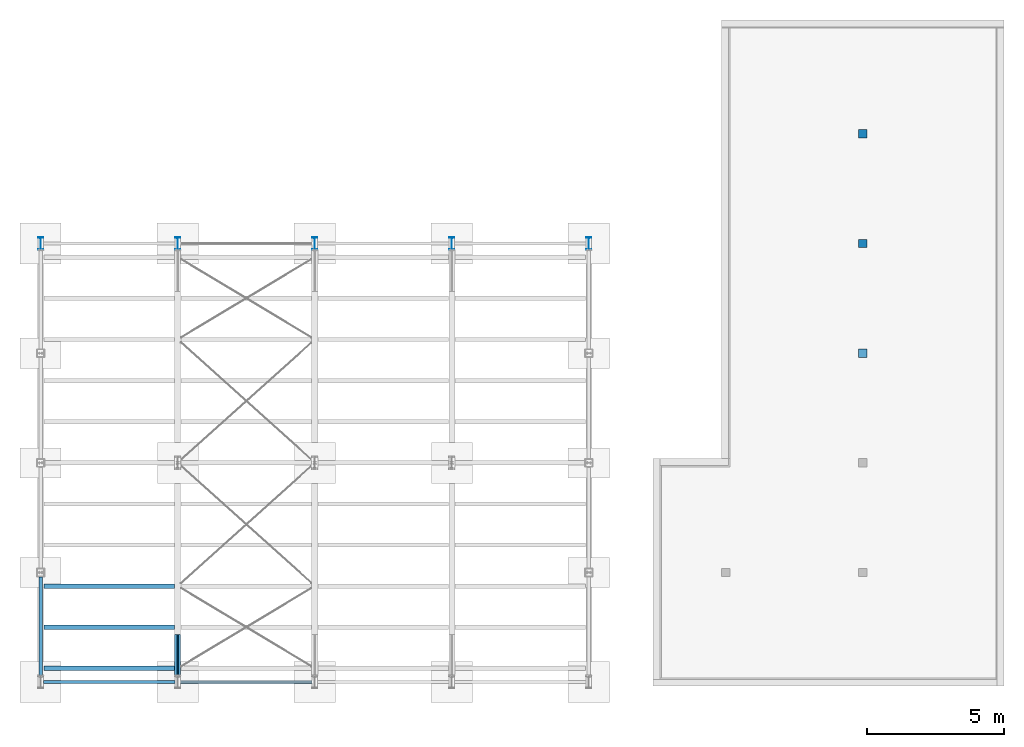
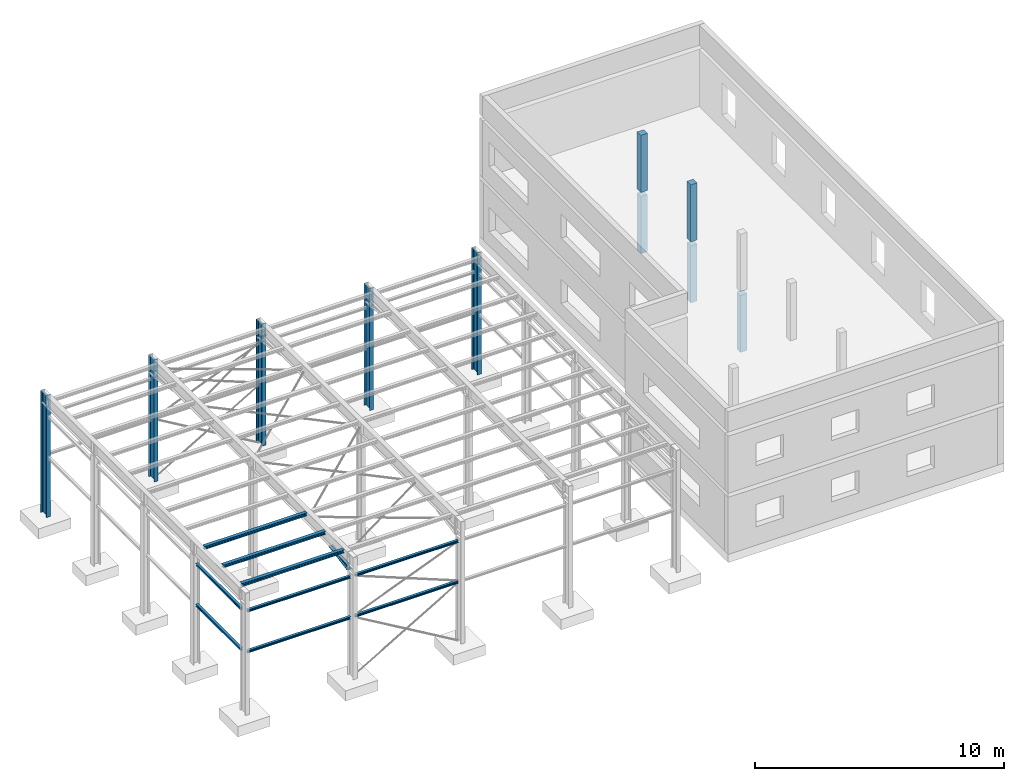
# Not in any storey, part 2 of 50: 10 columns, 9 beams, 1 member, 37 openings.
"""IFC4 model written with IfcOpenShell, lengths in metres."""

from ifc_helpers import new_model, entity, si_unit, converted_unit, derived_unit, direction, frame, origin, origin_2d, origin_2d_with_axis, place, context, subcontext, project, spatial, polyline, line, arc, indexed_curve, circle, i_section, outline, extrude, clip, halfspace, source, transform, mapped, material, type_object, type_shapes, element, save


model = new_model("IFC4")

# Units and contexts
model_context = context("Model", 3, precision=1e-05, world=origin(), true_north=direction((6.123233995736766e-17, 1.0)))
body_context = subcontext(model_context, "Body", "Model", "MODEL_VIEW")
ifc_project = project(units=[si_unit("LENGTHUNIT", "METRE"), si_unit("AREAUNIT", "SQUARE_METRE"), converted_unit("PLANEANGLEUNIT", "DEGREE", entity("IfcPlaneAngleMeasure", 0.017453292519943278), si_unit("PLANEANGLEUNIT", "RADIAN"), dimensions=[0, 0, 0, 0, 0, 0, 0]), si_unit("VOLUMEUNIT", "CUBIC_METRE"), derived_unit("THERMALTRANSMITTANCEUNIT", [(si_unit("MASSUNIT", "GRAM", prefix="KILO"), 1), (si_unit("THERMODYNAMICTEMPERATUREUNIT", "KELVIN"), -1), (si_unit("TIMEUNIT", "SECOND"), -3)])], contexts=[model_context])

# Site
site_placement = place(None, origin())
site = spatial("IfcSite", under=ifc_project, at=site_placement, Name="Default", CompositionType="ELEMENT")

# Columns
ifc_material_1 = material(Name="Ortbeton - bewehrt Verputzt", Category="Generisch")
column_type_1 = type_object("IfcColumnType", Name="STB Stütze - rechteckig:STB 300 x 300", PredefinedType="COLUMN", material=ifc_material_1)
shared_shape_1 = source(origin(), body_context, "Body", "SweptSolid", [
    extrude(outline(indexed_curve([(-0.15000000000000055, -0.15000000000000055), (0.15000000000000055, -0.15000000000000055), (0.15000000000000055, 0.15000000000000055), (-0.15000000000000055, 0.15000000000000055), (-0.15000000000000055, -0.15000000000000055)], self_intersect=False)), frame((33.190144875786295, 21.93401753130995, 3.0), z_axis=(0.0, 0.0, 1.0), x_axis=(-1.0, 0.0, 0.0)), (0.0, 0.0, 1.0), 2.8000000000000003),
])
type_shapes(column_type_1, [shared_shape_1])
column_1_placement = place(site_placement, origin())
element("IfcColumn", 1, at=column_1_placement, inside=site, type_object=column_type_1, material=ifc_material_1, Name="STB Stütze - rechteckig:STB 300 x 300", ObjectType="STB Stütze - rechteckig:STB 300 x 300", PredefinedType="COLUMN", context=body_context, shape_type="MappedRepresentation", body=[
    mapped(shared_shape_1, transform((0.0, 0.0, 0.0), scale=1.0)),
])
column_type_2 = type_object("IfcColumnType", Name="STB Stütze - rechteckig:STB 300 x 300", PredefinedType="COLUMN", material=ifc_material_1)
shared_shape_2 = source(origin(), body_context, "Body", "SweptSolid", [
    extrude(outline(indexed_curve([(-0.15000000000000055, -0.14999999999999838), (0.15000000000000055, -0.14999999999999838), (0.15000000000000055, 0.15000000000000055), (-0.15000000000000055, 0.15000000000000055), (-0.15000000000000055, -0.14999999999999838)], self_intersect=False)), frame((33.19014487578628, 17.92976753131, 3.0), z_axis=(0.0, 0.0, 1.0), x_axis=(-1.0, 0.0, 0.0)), (0.0, 0.0, 1.0), 2.8000000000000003),
])
type_shapes(column_type_2, [shared_shape_2])
column_2_placement = place(site_placement, origin())
element("IfcColumn", 2, at=column_2_placement, inside=site, type_object=column_type_2, material=ifc_material_1, Name="STB Stütze - rechteckig:STB 300 x 300", ObjectType="STB Stütze - rechteckig:STB 300 x 300", PredefinedType="COLUMN", context=body_context, shape_type="MappedRepresentation", body=[
    mapped(shared_shape_2, transform((0.0, 0.0, 0.0), scale=1.0)),
])
column_type_3 = type_object("IfcColumnType", Name="STB Stütze - rechteckig:STB 300 x 300", PredefinedType="COLUMN", material=ifc_material_1)
shared_shape_3 = source(origin(), body_context, "Body", "SweptSolid", [
    extrude(outline(indexed_curve([(-0.15000000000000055, -0.15000000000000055), (0.15000000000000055, -0.15000000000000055), (0.15000000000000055, 0.15000000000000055), (-0.15000000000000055, 0.15000000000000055), (-0.15000000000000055, -0.15000000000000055)], self_intersect=False)), frame((33.190144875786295, 21.93401753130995, 0.0), z_axis=(0.0, 0.0, 1.0), x_axis=(-1.0, 0.0, 0.0)), (0.0, 0.0, 1.0), 2.8000000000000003),
])
type_shapes(column_type_3, [shared_shape_3])
column_3_placement = place(site_placement, origin())
element("IfcColumn", 3, at=column_3_placement, inside=site, type_object=column_type_3, material=ifc_material_1, Name="STB Stütze - rechteckig:STB 300 x 300", ObjectType="STB Stütze - rechteckig:STB 300 x 300", PredefinedType="COLUMN", context=body_context, shape_type="MappedRepresentation", body=[
    mapped(shared_shape_3, transform((0.0, 0.0, 0.0), scale=1.0)),
])
column_type_4 = type_object("IfcColumnType", Name="STB Stütze - rechteckig:STB 300 x 300", PredefinedType="COLUMN", material=ifc_material_1)
shared_shape_4 = source(origin(), body_context, "Body", "SweptSolid", [
    extrude(outline(indexed_curve([(-0.15000000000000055, -0.14999999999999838), (0.15000000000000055, -0.14999999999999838), (0.15000000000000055, 0.15000000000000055), (-0.15000000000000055, 0.15000000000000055), (-0.15000000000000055, -0.14999999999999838)], self_intersect=False)), frame((33.19014487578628, 17.929767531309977, 0.0), z_axis=(0.0, 0.0, 1.0), x_axis=(-1.0, 0.0, 0.0)), (0.0, 0.0, 1.0), 2.8000000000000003),
])
type_shapes(column_type_4, [shared_shape_4])
column_4_placement = place(site_placement, origin())
element("IfcColumn", 4, at=column_4_placement, inside=site, type_object=column_type_4, material=ifc_material_1, Name="STB Stütze - rechteckig:STB 300 x 300", ObjectType="STB Stütze - rechteckig:STB 300 x 300", PredefinedType="COLUMN", context=body_context, shape_type="MappedRepresentation", body=[
    mapped(shared_shape_4, transform((0.0, 0.0, 0.0), scale=1.0)),
])
column_type_5 = type_object("IfcColumnType", Name="STB Stütze - rechteckig:STB 300 x 300", PredefinedType="COLUMN", material=ifc_material_1)
shared_shape_5 = source(origin(), body_context, "Body", "SweptSolid", [
    extrude(outline(indexed_curve([(-0.15000000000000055, -0.14999999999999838), (0.15000000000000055, -0.14999999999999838), (0.15000000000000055, 0.15000000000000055), (-0.15000000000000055, 0.15000000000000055), (-0.15000000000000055, -0.14999999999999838)], self_intersect=False)), frame((33.19014487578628, 13.929767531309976, 0.0), z_axis=(0.0, 0.0, 1.0), x_axis=(-1.0, 0.0, 0.0)), (0.0, 0.0, 1.0), 2.8000000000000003),
])
type_shapes(column_type_5, [shared_shape_5])
column_5_placement = place(site_placement, origin())
element("IfcColumn", 5, at=column_5_placement, inside=site, type_object=column_type_5, material=ifc_material_1, Name="STB Stütze - rechteckig:STB 300 x 300", ObjectType="STB Stütze - rechteckig:STB 300 x 300", PredefinedType="COLUMN", context=body_context, shape_type="MappedRepresentation", body=[
    mapped(shared_shape_5, transform((0.0, 0.0, 0.0), scale=1.0)),
])

# Column, openings
ifc_material_2 = material(Name="Metall - Baustahl S235", Category="Metall")
column_type_6 = type_object("IfcColumnType", Name="IPE Stütze:IPE 450", PredefinedType="COLUMN", material=ifc_material_2)
column_6_placement = place(site_placement, frame((8.190144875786, 17.929767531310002, 6.469233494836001), z_axis=(0.0, 0.0, 1.0), x_axis=(1.0, 0.0, 0.0)))
column_6 = element("IfcColumn", 6, at=column_6_placement, inside=site, type_object=column_type_6, material=ifc_material_2, Name="IPE Stütze:IPE 450", ObjectType="IPE 450", context=model_context, shape_type="Clipping", body=[
    clip(extrude(i_section(OverallWidth=0.19, OverallDepth=0.45, WebThickness=0.0094, FlangeThickness=0.0146, FilletRadius=0.021, at=origin_2d()), origin(), (0.0, 0.0, -1.0), 6.469233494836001), halfspace(frame((-8.190144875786, -17.929767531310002, -0.489234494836), z_axis=(0.0, 0.0, -1.0), x_axis=(-1.0, 0.0, 0.0)), True)),
])
opening_1_placement = place(column_6_placement, frame((-0.05, -0.2099, -1.3242334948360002), z_axis=(0.0, -1.0, 0.0), x_axis=(1.0, 0.0, 0.0)))
element("IfcOpeningElement", 7, at=opening_1_placement, cuts=column_6, ObjectType="Opening", context=model_context, shape_type="SweptSolid", body=[
    extrude(circle(Radius=0.009000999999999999, at=origin_2d_with_axis()), origin(), (0.0, 0.0, 1.0), 0.0156),
])
opening_2_placement = place(column_6_placement, frame((-0.05, -0.2099, -1.0242334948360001), z_axis=(0.0, -1.0, 0.0), x_axis=(1.0, 0.0, 0.0)))
element("IfcOpeningElement", 8, at=opening_2_placement, cuts=column_6, ObjectType="Opening", context=model_context, shape_type="SweptSolid", body=[
    extrude(circle(Radius=0.009000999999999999, at=origin_2d_with_axis()), origin(), (0.0, 0.0, 1.0), 0.0156),
])
opening_3_placement = place(column_6_placement, frame((-0.05, -0.2099, -0.6742334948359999), z_axis=(0.0, -1.0, 0.0), x_axis=(1.0, 0.0, 0.0)))
element("IfcOpeningElement", 9, at=opening_3_placement, cuts=column_6, ObjectType="Opening", context=model_context, shape_type="SweptSolid", body=[
    extrude(circle(Radius=0.009000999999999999, at=origin_2d_with_axis()), origin(), (0.0, 0.0, 1.0), 0.0156),
])
opening_4_placement = place(column_6_placement, frame((0.05, -0.2099, -0.574233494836), z_axis=(0.0, -1.0, 0.0), x_axis=(1.0, 0.0, 0.0)))
element("IfcOpeningElement", 10, at=opening_4_placement, cuts=column_6, ObjectType="Opening", context=model_context, shape_type="SweptSolid", body=[
    extrude(circle(Radius=0.009000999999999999, at=origin_2d_with_axis()), origin(), (0.0, 0.0, 1.0), 0.0156),
])
opening_5_placement = place(column_6_placement, frame((0.05, -0.2099, -0.6742334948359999), z_axis=(0.0, -1.0, 0.0), x_axis=(1.0, 0.0, 0.0)))
element("IfcOpeningElement", 11, at=opening_5_placement, cuts=column_6, ObjectType="Opening", context=model_context, shape_type="SweptSolid", body=[
    extrude(circle(Radius=0.009000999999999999, at=origin_2d_with_axis()), origin(), (0.0, 0.0, 1.0), 0.0156),
])
opening_6_placement = place(column_6_placement, frame((-0.05, -0.2099, -0.574233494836), z_axis=(0.0, -1.0, 0.0), x_axis=(1.0, 0.0, 0.0)))
element("IfcOpeningElement", 12, at=opening_6_placement, cuts=column_6, ObjectType="Opening", context=model_context, shape_type="SweptSolid", body=[
    extrude(circle(Radius=0.009000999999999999, at=origin_2d_with_axis()), origin(), (0.0, 0.0, 1.0), 0.0156),
])
opening_7_placement = place(column_6_placement, frame((0.05, -0.2099, -1.3242334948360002), z_axis=(0.0, -1.0, 0.0), x_axis=(1.0, 0.0, 0.0)))
element("IfcOpeningElement", 13, at=opening_7_placement, cuts=column_6, ObjectType="Opening", context=model_context, shape_type="SweptSolid", body=[
    extrude(circle(Radius=0.009000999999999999, at=origin_2d_with_axis()), origin(), (0.0, 0.0, 1.0), 0.0156),
])
opening_8_placement = place(column_6_placement, frame((0.05, -0.2099, -1.0242334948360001), z_axis=(0.0, -1.0, 0.0), x_axis=(1.0, 0.0, 0.0)))
element("IfcOpeningElement", 14, at=opening_8_placement, cuts=column_6, ObjectType="Opening", context=model_context, shape_type="SweptSolid", body=[
    extrude(circle(Radius=0.009000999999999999, at=origin_2d_with_axis()), origin(), (0.0, 0.0, 1.0), 0.0156),
])

column_7_placement = place(site_placement, frame((13.190144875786, 17.929767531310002, 6.469233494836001), z_axis=(0.0, 0.0, 1.0), x_axis=(1.0, 0.0, 0.0)))
column_7 = element("IfcColumn", 15, at=column_7_placement, inside=site, type_object=column_type_6, material=ifc_material_2, Name="IPE Stütze:IPE 450", ObjectType="IPE 450", context=model_context, shape_type="Clipping", body=[
    clip(extrude(i_section(OverallWidth=0.19, OverallDepth=0.45, WebThickness=0.0094, FlangeThickness=0.0146, FilletRadius=0.021, at=origin_2d()), origin(), (0.0, 0.0, -1.0), 6.469233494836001), halfspace(frame((-13.190144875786, -17.929767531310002, -0.489234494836), z_axis=(0.0, 0.0, -1.0), x_axis=(-1.0, 0.0, 0.0)), True)),
])
opening_9_placement = place(column_7_placement, frame((0.05, -0.2099, -1.0242334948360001), z_axis=(0.0, -1.0, 0.0), x_axis=(1.0, 0.0, 0.0)))
element("IfcOpeningElement", 16, at=opening_9_placement, cuts=column_7, ObjectType="Opening", context=model_context, shape_type="SweptSolid", body=[
    extrude(circle(Radius=0.009000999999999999, at=origin_2d_with_axis()), origin(), (0.0, 0.0, 1.0), 0.0156),
])
opening_10_placement = place(column_7_placement, frame((-0.05, -0.2099, -0.574233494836), z_axis=(0.0, -1.0, 0.0), x_axis=(1.0, 0.0, 0.0)))
element("IfcOpeningElement", 17, at=opening_10_placement, cuts=column_7, ObjectType="Opening", context=model_context, shape_type="SweptSolid", body=[
    extrude(circle(Radius=0.009000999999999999, at=origin_2d_with_axis()), origin(), (0.0, 0.0, 1.0), 0.0156),
])
opening_11_placement = place(column_7_placement, frame((0.05, -0.2099, -0.574233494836), z_axis=(0.0, -1.0, 0.0), x_axis=(1.0, 0.0, 0.0)))
element("IfcOpeningElement", 18, at=opening_11_placement, cuts=column_7, ObjectType="Opening", context=model_context, shape_type="SweptSolid", body=[
    extrude(circle(Radius=0.009000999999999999, at=origin_2d_with_axis()), origin(), (0.0, 0.0, 1.0), 0.0156),
])
opening_12_placement = place(column_7_placement, frame((0.05, -0.2099, -0.6742334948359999), z_axis=(0.0, -1.0, 0.0), x_axis=(1.0, 0.0, 0.0)))
element("IfcOpeningElement", 19, at=opening_12_placement, cuts=column_7, ObjectType="Opening", context=model_context, shape_type="SweptSolid", body=[
    extrude(circle(Radius=0.009000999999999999, at=origin_2d_with_axis()), origin(), (0.0, 0.0, 1.0), 0.0156),
])
opening_13_placement = place(column_7_placement, frame((0.05, -0.2099, -1.3242334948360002), z_axis=(0.0, -1.0, 0.0), x_axis=(1.0, 0.0, 0.0)))
element("IfcOpeningElement", 20, at=opening_13_placement, cuts=column_7, ObjectType="Opening", context=model_context, shape_type="SweptSolid", body=[
    extrude(circle(Radius=0.009000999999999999, at=origin_2d_with_axis()), origin(), (0.0, 0.0, 1.0), 0.0156),
])
opening_14_placement = place(column_7_placement, frame((-0.05, -0.2099, -1.0242334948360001), z_axis=(0.0, -1.0, 0.0), x_axis=(1.0, 0.0, 0.0)))
element("IfcOpeningElement", 21, at=opening_14_placement, cuts=column_7, ObjectType="Opening", context=model_context, shape_type="SweptSolid", body=[
    extrude(circle(Radius=0.009000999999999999, at=origin_2d_with_axis()), origin(), (0.0, 0.0, 1.0), 0.0156),
])
opening_15_placement = place(column_7_placement, frame((-0.05, -0.2099, -1.3242334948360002), z_axis=(0.0, -1.0, 0.0), x_axis=(1.0, 0.0, 0.0)))
element("IfcOpeningElement", 22, at=opening_15_placement, cuts=column_7, ObjectType="Opening", context=model_context, shape_type="SweptSolid", body=[
    extrude(circle(Radius=0.009000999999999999, at=origin_2d_with_axis()), origin(), (0.0, 0.0, 1.0), 0.0156),
])
opening_16_placement = place(column_7_placement, frame((-0.05, -0.2099, -0.6742334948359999), z_axis=(0.0, -1.0, 0.0), x_axis=(1.0, 0.0, 0.0)))
element("IfcOpeningElement", 23, at=opening_16_placement, cuts=column_7, ObjectType="Opening", context=model_context, shape_type="SweptSolid", body=[
    extrude(circle(Radius=0.009000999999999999, at=origin_2d_with_axis()), origin(), (0.0, 0.0, 1.0), 0.0156),
])

column_8_placement = place(site_placement, frame((18.190144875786, 17.929767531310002, 6.469233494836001), z_axis=(0.0, 0.0, 1.0), x_axis=(1.0, 0.0, 0.0)))
column_8 = element("IfcColumn", 24, at=column_8_placement, inside=site, type_object=column_type_6, material=ifc_material_2, Name="IPE Stütze:IPE 450", ObjectType="IPE 450", context=model_context, shape_type="Clipping", body=[
    clip(extrude(i_section(OverallWidth=0.19, OverallDepth=0.45, WebThickness=0.0094, FlangeThickness=0.0146, FilletRadius=0.021, at=origin_2d()), origin(), (0.0, 0.0, -1.0), 6.469233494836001), halfspace(frame((-18.190144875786, -17.929767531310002, -0.489234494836), z_axis=(0.0, 0.0, -1.0), x_axis=(-1.0, 0.0, 0.0)), True)),
])
opening_17_placement = place(column_8_placement, frame((-0.05, -0.2099, -0.6742334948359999), z_axis=(0.0, -1.0, 0.0), x_axis=(1.0, 0.0, 0.0)))
element("IfcOpeningElement", 25, at=opening_17_placement, cuts=column_8, ObjectType="Opening", context=model_context, shape_type="SweptSolid", body=[
    extrude(circle(Radius=0.009000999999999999, at=origin_2d_with_axis()), origin(), (0.0, 0.0, 1.0), 0.0156),
])
opening_18_placement = place(column_8_placement, frame((0.05, -0.2099, -1.0242334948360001), z_axis=(0.0, -1.0, 0.0), x_axis=(1.0, 0.0, 0.0)))
element("IfcOpeningElement", 26, at=opening_18_placement, cuts=column_8, ObjectType="Opening", context=model_context, shape_type="SweptSolid", body=[
    extrude(circle(Radius=0.009000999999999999, at=origin_2d_with_axis()), origin(), (0.0, 0.0, 1.0), 0.0156),
])
opening_19_placement = place(column_8_placement, frame((0.05, -0.2099, -1.3242334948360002), z_axis=(0.0, -1.0, 0.0), x_axis=(1.0, 0.0, 0.0)))
element("IfcOpeningElement", 27, at=opening_19_placement, cuts=column_8, ObjectType="Opening", context=model_context, shape_type="SweptSolid", body=[
    extrude(circle(Radius=0.009000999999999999, at=origin_2d_with_axis()), origin(), (0.0, 0.0, 1.0), 0.0156),
])
opening_20_placement = place(column_8_placement, frame((-0.05, -0.2099, -1.0242334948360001), z_axis=(0.0, -1.0, 0.0), x_axis=(1.0, 0.0, 0.0)))
element("IfcOpeningElement", 28, at=opening_20_placement, cuts=column_8, ObjectType="Opening", context=model_context, shape_type="SweptSolid", body=[
    extrude(circle(Radius=0.009000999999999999, at=origin_2d_with_axis()), origin(), (0.0, 0.0, 1.0), 0.0156),
])
opening_21_placement = place(column_8_placement, frame((-0.05, -0.2099, -0.574233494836), z_axis=(0.0, -1.0, 0.0), x_axis=(1.0, 0.0, 0.0)))
element("IfcOpeningElement", 29, at=opening_21_placement, cuts=column_8, ObjectType="Opening", context=model_context, shape_type="SweptSolid", body=[
    extrude(circle(Radius=0.009000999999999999, at=origin_2d_with_axis()), origin(), (0.0, 0.0, 1.0), 0.0156),
])
opening_22_placement = place(column_8_placement, frame((0.05, -0.2099, -0.574233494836), z_axis=(0.0, -1.0, 0.0), x_axis=(1.0, 0.0, 0.0)))
element("IfcOpeningElement", 30, at=opening_22_placement, cuts=column_8, ObjectType="Opening", context=model_context, shape_type="SweptSolid", body=[
    extrude(circle(Radius=0.009000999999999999, at=origin_2d_with_axis()), origin(), (0.0, 0.0, 1.0), 0.0156),
])
opening_23_placement = place(column_8_placement, frame((0.05, -0.2099, -0.6742334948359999), z_axis=(0.0, -1.0, 0.0), x_axis=(1.0, 0.0, 0.0)))
element("IfcOpeningElement", 31, at=opening_23_placement, cuts=column_8, ObjectType="Opening", context=model_context, shape_type="SweptSolid", body=[
    extrude(circle(Radius=0.009000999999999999, at=origin_2d_with_axis()), origin(), (0.0, 0.0, 1.0), 0.0156),
])
opening_24_placement = place(column_8_placement, frame((-0.05, -0.2099, -1.3242334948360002), z_axis=(0.0, -1.0, 0.0), x_axis=(1.0, 0.0, 0.0)))
element("IfcOpeningElement", 32, at=opening_24_placement, cuts=column_8, ObjectType="Opening", context=model_context, shape_type="SweptSolid", body=[
    extrude(circle(Radius=0.009000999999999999, at=origin_2d_with_axis()), origin(), (0.0, 0.0, 1.0), 0.0156),
])

column_9_placement = place(site_placement, frame((23.190144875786, 17.929767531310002, 6.469233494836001), z_axis=(0.0, 0.0, 1.0), x_axis=(1.0, 0.0, 0.0)))
column_9 = element("IfcColumn", 33, at=column_9_placement, inside=site, type_object=column_type_6, material=ifc_material_2, Name="IPE Stütze:IPE 450", ObjectType="IPE 450", context=model_context, shape_type="Clipping", body=[
    clip(extrude(i_section(OverallWidth=0.19, OverallDepth=0.45, WebThickness=0.0094, FlangeThickness=0.0146, FilletRadius=0.021, at=origin_2d()), origin(), (0.0, 0.0, -1.0), 6.469233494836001), halfspace(frame((-23.190144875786, -17.929767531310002, -0.489234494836), z_axis=(0.0, 0.0, -1.0), x_axis=(-1.0, 0.0, 0.0)), True)),
])
opening_25_placement = place(column_9_placement, frame((-0.05, -0.2099, -0.574233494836), z_axis=(0.0, -1.0, 0.0), x_axis=(1.0, 0.0, 0.0)))
element("IfcOpeningElement", 34, at=opening_25_placement, cuts=column_9, ObjectType="Opening", context=model_context, shape_type="SweptSolid", body=[
    extrude(circle(Radius=0.009000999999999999, at=origin_2d_with_axis()), origin(), (0.0, 0.0, 1.0), 0.0156),
])
opening_26_placement = place(column_9_placement, frame((0.05, -0.2099, -0.6742334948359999), z_axis=(0.0, -1.0, 0.0), x_axis=(1.0, 0.0, 0.0)))
element("IfcOpeningElement", 35, at=opening_26_placement, cuts=column_9, ObjectType="Opening", context=model_context, shape_type="SweptSolid", body=[
    extrude(circle(Radius=0.009000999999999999, at=origin_2d_with_axis()), origin(), (0.0, 0.0, 1.0), 0.0156),
])
opening_27_placement = place(column_9_placement, frame((-0.05, -0.2099, -1.0242334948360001), z_axis=(0.0, -1.0, 0.0), x_axis=(1.0, 0.0, 0.0)))
element("IfcOpeningElement", 36, at=opening_27_placement, cuts=column_9, ObjectType="Opening", context=model_context, shape_type="SweptSolid", body=[
    extrude(circle(Radius=0.009000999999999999, at=origin_2d_with_axis()), origin(), (0.0, 0.0, 1.0), 0.0156),
])
opening_28_placement = place(column_9_placement, frame((0.05, -0.2099, -0.574233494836), z_axis=(0.0, -1.0, 0.0), x_axis=(1.0, 0.0, 0.0)))
element("IfcOpeningElement", 37, at=opening_28_placement, cuts=column_9, ObjectType="Opening", context=model_context, shape_type="SweptSolid", body=[
    extrude(circle(Radius=0.009000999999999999, at=origin_2d_with_axis()), origin(), (0.0, 0.0, 1.0), 0.0156),
])
opening_29_placement = place(column_9_placement, frame((-0.05, -0.2099, -0.6742334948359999), z_axis=(0.0, -1.0, 0.0), x_axis=(1.0, 0.0, 0.0)))
element("IfcOpeningElement", 38, at=opening_29_placement, cuts=column_9, ObjectType="Opening", context=model_context, shape_type="SweptSolid", body=[
    extrude(circle(Radius=0.009000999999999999, at=origin_2d_with_axis()), origin(), (0.0, 0.0, 1.0), 0.0156),
])
opening_30_placement = place(column_9_placement, frame((0.05, -0.2099, -1.0242334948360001), z_axis=(0.0, -1.0, 0.0), x_axis=(1.0, 0.0, 0.0)))
element("IfcOpeningElement", 39, at=opening_30_placement, cuts=column_9, ObjectType="Opening", context=model_context, shape_type="SweptSolid", body=[
    extrude(circle(Radius=0.009000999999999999, at=origin_2d_with_axis()), origin(), (0.0, 0.0, 1.0), 0.0156),
])

column_10_placement = place(site_placement, frame((3.190144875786, 17.929767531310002, 6.469233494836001), z_axis=(0.0, 0.0, 1.0), x_axis=(1.0, 0.0, 0.0)))
column_10 = element("IfcColumn", 40, at=column_10_placement, inside=site, type_object=column_type_6, material=ifc_material_2, Name="IPE Stütze:IPE 450", ObjectType="IPE 450", context=model_context, shape_type="Clipping", body=[
    clip(extrude(i_section(OverallWidth=0.19, OverallDepth=0.45, WebThickness=0.0094, FlangeThickness=0.0146, FilletRadius=0.021, at=origin_2d()), origin(), (0.0, 0.0, -1.0), 6.469233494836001), halfspace(frame((-3.190144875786, -17.929767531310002, -0.489234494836), z_axis=(0.0, 0.0, -1.0), x_axis=(-1.0, 0.0, 0.0)), True)),
])
opening_31_placement = place(column_10_placement, frame((-0.05, -0.2099, -0.6742334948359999), z_axis=(0.0, -1.0, 0.0), x_axis=(1.0, 0.0, 0.0)))
element("IfcOpeningElement", 41, at=opening_31_placement, cuts=column_10, ObjectType="Opening", context=model_context, shape_type="SweptSolid", body=[
    extrude(circle(Radius=0.009000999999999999, at=origin_2d_with_axis()), origin(), (0.0, 0.0, 1.0), 0.0156),
])
opening_32_placement = place(column_10_placement, frame((-0.05, -0.2099, -0.574233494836), z_axis=(0.0, -1.0, 0.0), x_axis=(1.0, 0.0, 0.0)))
element("IfcOpeningElement", 42, at=opening_32_placement, cuts=column_10, ObjectType="Opening", context=model_context, shape_type="SweptSolid", body=[
    extrude(circle(Radius=0.009000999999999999, at=origin_2d_with_axis()), origin(), (0.0, 0.0, 1.0), 0.0156),
])
opening_33_placement = place(column_10_placement, frame((0.05, -0.2099, -1.0242334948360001), z_axis=(0.0, -1.0, 0.0), x_axis=(1.0, 0.0, 0.0)))
element("IfcOpeningElement", 43, at=opening_33_placement, cuts=column_10, ObjectType="Opening", context=model_context, shape_type="SweptSolid", body=[
    extrude(circle(Radius=0.009000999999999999, at=origin_2d_with_axis()), origin(), (0.0, 0.0, 1.0), 0.0156),
])
opening_34_placement = place(column_10_placement, frame((0.05, -0.2099, -0.574233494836), z_axis=(0.0, -1.0, 0.0), x_axis=(1.0, 0.0, 0.0)))
element("IfcOpeningElement", 44, at=opening_34_placement, cuts=column_10, ObjectType="Opening", context=model_context, shape_type="SweptSolid", body=[
    extrude(circle(Radius=0.009000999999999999, at=origin_2d_with_axis()), origin(), (0.0, 0.0, 1.0), 0.0156),
])
opening_35_placement = place(column_10_placement, frame((0.05, -0.2099, -0.6742334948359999), z_axis=(0.0, -1.0, 0.0), x_axis=(1.0, 0.0, 0.0)))
element("IfcOpeningElement", 45, at=opening_35_placement, cuts=column_10, ObjectType="Opening", context=model_context, shape_type="SweptSolid", body=[
    extrude(circle(Radius=0.009000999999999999, at=origin_2d_with_axis()), origin(), (0.0, 0.0, 1.0), 0.0156),
])
opening_36_placement = place(column_10_placement, frame((-0.05, -0.2099, -1.0242334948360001), z_axis=(0.0, -1.0, 0.0), x_axis=(1.0, 0.0, 0.0)))
element("IfcOpeningElement", 46, at=opening_36_placement, cuts=column_10, ObjectType="Opening", context=model_context, shape_type="SweptSolid", body=[
    extrude(circle(Radius=0.009000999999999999, at=origin_2d_with_axis()), origin(), (0.0, 0.0, 1.0), 0.0156),
])

# Beams
beam_type_1 = type_object("IfcBeamType", Name="HEA Träger:HEA 120", PredefinedType="BEAM", material=ifc_material_2)
shared_shape_6 = source(origin(), body_context, "Body", "SweptSolid", [
    extrude(outline(indexed_curve([(-0.060000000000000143, -0.04899999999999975), (-0.060000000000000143, -0.05700000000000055), (0.06000000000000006, -0.05700000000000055), (0.06000000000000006, -0.04899999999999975), (0.01449999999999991, -0.04899999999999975), (0.006014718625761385, -0.04548528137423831), (0.002499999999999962, -0.036999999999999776), (0.002499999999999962, 0.037000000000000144), (0.00601471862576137, 0.04548528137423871), (0.014499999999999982, 0.049000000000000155), (0.06000000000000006, 0.049000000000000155), (0.06000000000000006, 0.05699999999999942), (-0.05999999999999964, 0.05699999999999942), (-0.05999999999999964, 0.049000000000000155), (-0.014500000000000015, 0.049000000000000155), (-0.0060147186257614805, 0.04548528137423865), (-0.002500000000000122, 0.03700000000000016), (-0.002500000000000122, -0.03699999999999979), (-0.006014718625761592, -0.045485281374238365), (-0.014500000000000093, -0.04899999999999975)], segments=[line(1, 2, 3, 4, 5), arc(5, 6, 7), line(7, 8), arc(8, 9, 10), line(10, 11, 12, 13, 14, 15), arc(15, 16, 17), line(17, 18), arc(18, 19, 20), line(20, 1)], self_intersect=False)), frame((-2.392300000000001, 0.0, 0.0), z_axis=(-1.0, 0.0, 0.0), x_axis=(0.0, -1.0, 0.0)), (0.0, 0.0, -1.0), 4.784600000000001),
])
type_shapes(beam_type_1, [shared_shape_6])
for number, where in (
    (47, (5.690144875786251, 1.9297675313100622, 2.9429999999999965)),
    (48, (10.69014487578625, 1.9297675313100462, 2.9429999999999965)),
    (49, (5.690144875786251, 1.929767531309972, 4.942999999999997)),
    (50, (10.69014487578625, 1.929767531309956, 4.942999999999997)),
):
    element("IfcBeam", number, at=place(site_placement, frame(where)), inside=site, type_object=beam_type_1, material=ifc_material_2, Name="HEA Träger:HEA 120", ObjectType="HEA Träger:HEA 120", PredefinedType="BEAM", context=body_context, shape_type="MappedRepresentation", body=[
        mapped(shared_shape_6, transform((0.0, 0.0, 0.0), scale=1.0)),
    ])
beam_type_2 = type_object("IfcBeamType", Name="HEA Träger:HEA 120", PredefinedType="BEAM", material=ifc_material_2)
shared_shape_7 = source(origin(), body_context, "Body", "SweptSolid", [
    extrude(outline(indexed_curve([(-0.060000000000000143, -0.04899999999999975), (-0.060000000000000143, -0.05700000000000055), (0.06000000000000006, -0.05700000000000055), (0.06000000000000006, -0.04899999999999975), (0.01449999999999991, -0.04899999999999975), (0.006014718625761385, -0.04548528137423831), (0.002499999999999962, -0.036999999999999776), (0.002499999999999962, 0.037000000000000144), (0.00601471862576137, 0.04548528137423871), (0.014499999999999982, 0.049000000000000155), (0.06000000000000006, 0.049000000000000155), (0.06000000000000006, 0.05699999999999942), (-0.05999999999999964, 0.05699999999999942), (-0.05999999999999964, 0.049000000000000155), (-0.014500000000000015, 0.049000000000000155), (-0.0060147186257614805, 0.04548528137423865), (-0.002500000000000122, 0.03700000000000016), (-0.002500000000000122, -0.03699999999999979), (-0.006014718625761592, -0.045485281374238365), (-0.014500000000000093, -0.04899999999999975)], segments=[line(1, 2, 3, 4, 5), arc(5, 6, 7), line(7, 8), arc(8, 9, 10), line(10, 11, 12, 13, 14, 15), arc(15, 16, 17), line(17, 18), arc(18, 19, 20), line(20, 1)], self_intersect=False)), frame((-1.8372999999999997, 0.0, 0.0), z_axis=(-1.0, 0.0, 0.0), x_axis=(0.0, -1.0, 0.0)), (0.0, 0.0, -1.0), 3.5996000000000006),
])
type_shapes(beam_type_2, [shared_shape_7])
for number, where, z_axis, x_axis in (
    (51, (3.190144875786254, 3.929767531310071, 2.9429999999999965), (0.0, 0.0, 1.0), (0.0, -1.0, 0.0)),
    (52, (3.190144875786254, 3.929767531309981, 4.942999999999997), (0.0, 0.0, 1.0), (0.0, -1.0, 0.0)),
):
    element("IfcBeam", number, at=place(site_placement, frame(where, z_axis=z_axis, x_axis=x_axis)), inside=site, type_object=beam_type_2, material=ifc_material_2, Name="HEA Träger:HEA 120", ObjectType="HEA Träger:HEA 120", PredefinedType="BEAM", context=body_context, shape_type="MappedRepresentation", body=[
        mapped(shared_shape_7, transform((0.0, 0.0, 0.0), scale=1.0)),
    ])
beam_type_3 = type_object("IfcBeamType", Name="HEA Träger:HEA 160", PredefinedType="JOIST", material=ifc_material_2)
shared_shape_8 = source(origin(), body_context, "Body", "SweptSolid", [
    extrude(outline(indexed_curve([(-0.08000000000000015, -0.06699999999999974), (-0.08000000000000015, -0.07600000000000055), (0.08000000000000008, -0.07600000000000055), (0.08000000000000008, -0.06699999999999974), (0.01799999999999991, -0.06699999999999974), (0.007393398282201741, -0.06260660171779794), (0.002999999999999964, -0.051999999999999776), (0.0029999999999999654, 0.05200000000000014), (0.0073933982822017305, 0.06260660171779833), (0.017999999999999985, 0.06700000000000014), (0.08000000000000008, 0.06700000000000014), (0.08000000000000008, 0.07599999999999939), (-0.07999999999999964, 0.07599999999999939), (-0.07999999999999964, 0.06700000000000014), (-0.017999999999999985, 0.06700000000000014), (-0.007393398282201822, 0.06260660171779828), (-0.0030000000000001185, 0.05200000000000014), (-0.0030000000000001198, -0.051999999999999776), (-0.007393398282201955, -0.062606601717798), (-0.018000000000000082, -0.06699999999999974)], segments=[line(1, 2, 3, 4, 5), arc(5, 6, 7), line(7, 8), arc(8, 9, 10), line(10, 11, 12, 13, 14, 15), arc(15, 16, 17), line(17, 18), arc(18, 19, 20), line(20, 1)], self_intersect=False)), frame((-2.377300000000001, 0.0, 0.0), z_axis=(-1.0, 0.0, 0.0), x_axis=(0.0, -1.0, 0.0)), (0.0, 0.0, -1.0), 4.754600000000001),
])
type_shapes(beam_type_3, [shared_shape_8])
for number, where in (
    (53, (5.690144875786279, 2.4297675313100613, 5.923999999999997)),
    (54, (5.690144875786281, 3.9297675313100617, 5.923999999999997)),
    (55, (5.690144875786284, 5.429767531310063, 5.923999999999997)),
):
    element("IfcBeam", number, at=place(site_placement, frame(where)), inside=site, type_object=beam_type_3, material=ifc_material_2, Name="HEA Träger:HEA 160", ObjectType="HEA Träger:HEA 160", PredefinedType="JOIST", context=body_context, shape_type="MappedRepresentation", body=[
        mapped(shared_shape_8, transform((0.0, 0.0, 0.0), scale=1.0)),
    ])

# Member, opening
member_placement = place(site_placement, frame((8.190144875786, 1.197182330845, 5.230050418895), z_axis=(0.0, -0.984238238, -0.176847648), x_axis=(1.0, 0.0, 0.0)))
member = element("IfcMember", 56, at=member_placement, inside=site, Name="Haunch", ObjectType="Haunch", context=model_context, shape_type="Clipping", body=[
    clip(clip(clip(extrude(i_section(OverallWidth=0.22, OverallDepth=0.6, WebThickness=0.012, FlangeThickness=0.019, FilletRadius=0.024, at=origin_2d()), origin(), (0.0, 0.0, -1.0), 7.830197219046), halfspace(frame((-8.190144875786, -5.319615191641, -0.032334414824), z_axis=(0.0, -0.176847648, -0.984238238), x_axis=(-1.0, 0.0, 0.0)), True)), halfspace(frame((-8.190144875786, 0.37898877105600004, 1.148257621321), z_axis=(0.0, -0.984238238, 0.176847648), x_axis=(-1.0, 0.0, 0.0)), True)), halfspace(frame((-8.190144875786, -5.584886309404, -1.508689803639), z_axis=(0.0, 0.176847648, 0.984238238), x_axis=(1.0, 0.0, 0.0)), True)),
])
opening_37_placement = place(member_placement, frame((0.21009999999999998, -0.3, -0.9342564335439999), z_axis=(-1.0, 0.0, 0.0), x_axis=(0.0, 0.176847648, 0.984238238)))
element("IfcOpeningElement", 57, at=opening_37_placement, cuts=member, ObjectType="Opening", context=model_context, shape_type="SweptSolid", body=[
    extrude(outline(polyline([(1e-06, 0.30000099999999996), (-0.030002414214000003, 0.30000099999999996), (1e-06, 0.269997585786), (1e-06, 0.30000099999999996)])), origin(), (0.0, 0.0, 1.0), 0.42019999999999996),
])

save(model, "model.ifc")
